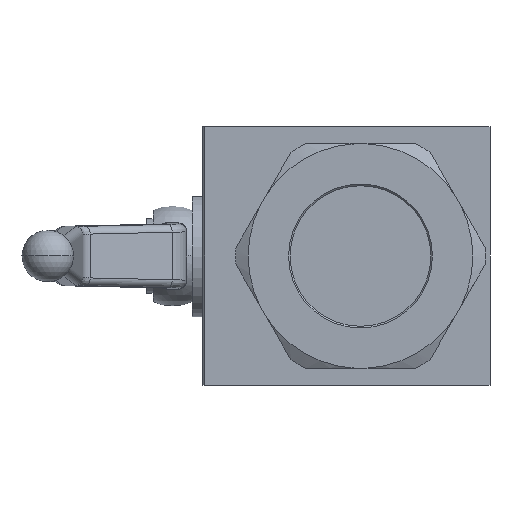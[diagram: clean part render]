
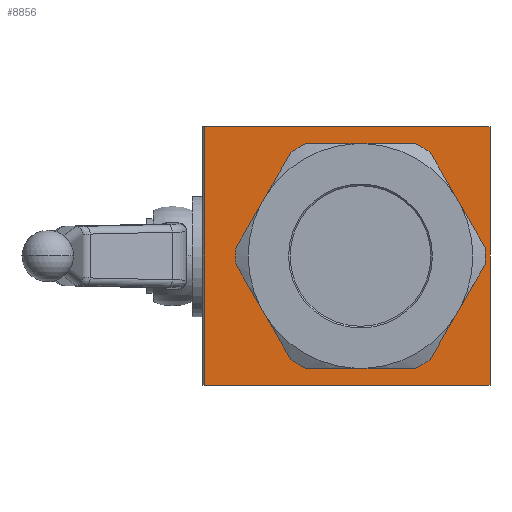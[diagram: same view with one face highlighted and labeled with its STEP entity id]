
A CAD part, left-side view. The second image highlights one B-rep face of the part: STEP entity #8856.
In plain terms, the highlighted planar face has unit normal (-1, 0, 0).
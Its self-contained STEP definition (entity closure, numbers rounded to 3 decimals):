
#151 = CARTESIAN_POINT ( 'NONE',  ( -42.5, 25.587, -19.768 ) ) ;
#192 = ORIENTED_EDGE ( 'NONE', *, *, #6669, .F. ) ;
#243 = EDGE_CURVE ( 'NONE', #6385, #10995, #10642, .T. ) ;
#313 = VECTOR ( 'NONE', #1812, 1000. ) ;
#355 = CARTESIAN_POINT ( 'NONE',  ( -42.5, -4.5, 0. ) ) ;
#390 = CARTESIAN_POINT ( 'NONE',  ( -42.5, 27.663, -16.172 ) ) ;
#435 = EDGE_CURVE ( 'NONE', #3451, #6654, #7914, .T. ) ;
#540 = LINE ( 'NONE', #4178, #3429 ) ;
#588 = AXIS2_PLACEMENT_3D ( 'NONE', #6982, #1754, #7864 ) ;
#589 = CARTESIAN_POINT ( 'NONE',  ( -42.5, -4.5, 0. ) ) ;
#792 = LINE ( 'NONE', #4767, #7496 ) ;
#1102 = CIRCLE ( 'NONE', #4184, 36. ) ;
#1235 = DIRECTION ( 'NONE',  ( 0., 0., 1. ) ) ;
#1253 = ORIENTED_EDGE ( 'NONE', *, *, #243, .F. ) ;
#1358 = VECTOR ( 'NONE', #7109, 1000. ) ;
#1472 = DIRECTION ( 'NONE',  ( 0., 0., 1. ) ) ;
#1497 = DIRECTION ( 'NONE',  ( -1., 0., 0. ) ) ;
#1586 = CARTESIAN_POINT ( 'NONE',  ( -42.5, 46., -41.5 ) ) ;
#1702 = DIRECTION ( 'NONE',  ( 0., 0.5, 0.866 ) ) ;
#1741 = CARTESIAN_POINT ( 'NONE',  ( -42.5, -46., 0. ) ) ;
#1754 = DIRECTION ( 'NONE',  ( 1., 0., 0. ) ) ;
#1770 = VERTEX_POINT ( 'NONE', #10509 ) ;
#1773 = ORIENTED_EDGE ( 'NONE', *, *, #2076, .F. ) ;
#1812 = DIRECTION ( 'NONE',  ( 0., -0.5, 0.866 ) ) ;
#1914 = ORIENTED_EDGE ( 'NONE', *, *, #435, .F. ) ;
#2076 = EDGE_CURVE ( 'NONE', #5516, #9198, #4662, .T. ) ;
#2133 = EDGE_CURVE ( 'NONE', #10387, #6385, #3581, .T. ) ;
#2144 = LINE ( 'NONE', #1741, #4478 ) ;
#2210 = CIRCLE ( 'NONE', #9126, 36. ) ;
#2262 = ORIENTED_EDGE ( 'NONE', *, *, #2133, .F. ) ;
#2504 = CARTESIAN_POINT ( 'NONE',  ( -42.5, -46., 41.5 ) ) ;
#2508 = CARTESIAN_POINT ( 'NONE',  ( -42.5, 46., 41.5 ) ) ;
#2511 = VECTOR ( 'NONE', #11265, 1000. ) ;
#2645 = ORIENTED_EDGE ( 'NONE', *, *, #9525, .F. ) ;
#2654 = ORIENTED_EDGE ( 'NONE', *, *, #6804, .F. ) ;
#2660 = CARTESIAN_POINT ( 'NONE',  ( -42.5, 45.5, 41.5 ) ) ;
#2752 = AXIS2_PLACEMENT_3D ( 'NONE', #355, #6473, #1235 ) ;
#3002 = VERTEX_POINT ( 'NONE', #7003 ) ;
#3080 = CARTESIAN_POINT ( 'NONE',  ( -42.5, -46., -41.5 ) ) ;
#3343 = CARTESIAN_POINT ( 'NONE',  ( -42.5, -34.587, -19.768 ) ) ;
#3355 = VERTEX_POINT ( 'NONE', #4972 ) ;
#3370 = ORIENTED_EDGE ( 'NONE', *, *, #4919, .T. ) ;
#3429 = VECTOR ( 'NONE', #9387, 1000. ) ;
#3451 = VERTEX_POINT ( 'NONE', #10322 ) ;
#3479 = VERTEX_POINT ( 'NONE', #7834 ) ;
#3499 = CARTESIAN_POINT ( 'NONE',  ( -42.5, -4.5, 0. ) ) ;
#3581 = CIRCLE ( 'NONE', #9563, 36. ) ;
#3589 = LINE ( 'NONE', #2660, #4798 ) ;
#3881 = VERTEX_POINT ( 'NONE', #5492 ) ;
#4178 = CARTESIAN_POINT ( 'NONE',  ( -42.5, 16.25, 35.94 ) ) ;
#4184 = AXIS2_PLACEMENT_3D ( 'NONE', #6737, #1497, #7610 ) ;
#4250 = VECTOR ( 'NONE', #7697, 1000. ) ;
#4318 = EDGE_CURVE ( 'NONE', #3479, #3002, #2144, .T. ) ;
#4378 = DIRECTION ( 'NONE',  ( 0., 0., 1. ) ) ;
#4397 = VECTOR ( 'NONE', #5127, 1000. ) ;
#4478 = VECTOR ( 'NONE', #1702, 1000. ) ;
#4611 = CARTESIAN_POINT ( 'NONE',  ( -42.5, -4.5, 0. ) ) ;
#4638 = ORIENTED_EDGE ( 'NONE', *, *, #4971, .F. ) ;
#4662 = LINE ( 'NONE', #2504, #4397 ) ;
#4734 = CARTESIAN_POINT ( 'NONE',  ( -42.5, -4.5, 0. ) ) ;
#4767 = CARTESIAN_POINT ( 'NONE',  ( -42.5, 16.25, -35.94 ) ) ;
#4798 = VECTOR ( 'NONE', #10476, 1000. ) ;
#4919 = EDGE_CURVE ( 'NONE', #7296, #6166, #3589, .T. ) ;
#4962 = LINE ( 'NONE', #8781, #313 ) ;
#4971 = EDGE_CURVE ( 'NONE', #4994, #3479, #2210, .T. ) ;
#4972 = CARTESIAN_POINT ( 'NONE',  ( -42.5, -2.423, 35.94 ) ) ;
#4994 = VERTEX_POINT ( 'NONE', #9095 ) ;
#5127 = DIRECTION ( 'NONE',  ( 0., 0., -1. ) ) ;
#5156 = AXIS2_PLACEMENT_3D ( 'NONE', #4611, #10700, #5482 ) ;
#5174 = CARTESIAN_POINT ( 'NONE',  ( -42.5, 45.5, -41.5 ) ) ;
#5482 = DIRECTION ( 'NONE',  ( 0., 0., 1. ) ) ;
#5492 = CARTESIAN_POINT ( 'NONE',  ( -42.5, -6.577, 35.94 ) ) ;
#5516 = VERTEX_POINT ( 'NONE', #10989 ) ;
#5614 = DIRECTION ( 'NONE',  ( 0., 0., 1. ) ) ;
#5623 = EDGE_LOOP ( 'NONE', ( #4638, #2645, #1914, #9421, #192, #1253, #2262, #2654, #10421, #6786, #6269, #6591 ) ) ;
#6060 = LINE ( 'NONE', #11065, #10416 ) ;
#6166 = VERTEX_POINT ( 'NONE', #5174 ) ;
#6269 = ORIENTED_EDGE ( 'NONE', *, *, #11132, .F. ) ;
#6366 = FACE_OUTER_BOUND ( 'NONE', #9222, .T. ) ;
#6385 = VERTEX_POINT ( 'NONE', #390 ) ;
#6473 = DIRECTION ( 'NONE',  ( -1., 0., 0. ) ) ;
#6568 = LINE ( 'NONE', #1586, #4250 ) ;
#6591 = ORIENTED_EDGE ( 'NONE', *, *, #4318, .F. ) ;
#6616 = EDGE_CURVE ( 'NONE', #6166, #9198, #6568, .T. ) ;
#6654 = VERTEX_POINT ( 'NONE', #3343 ) ;
#6669 = EDGE_CURVE ( 'NONE', #10995, #10644, #1102, .T. ) ;
#6680 = CARTESIAN_POINT ( 'NONE',  ( -42.5, -2.423, -35.94 ) ) ;
#6713 = DIRECTION ( 'NONE',  ( -1., 0., 0. ) ) ;
#6737 = CARTESIAN_POINT ( 'NONE',  ( -42.5, -4.5, 0. ) ) ;
#6786 = ORIENTED_EDGE ( 'NONE', *, *, #10237, .F. ) ;
#6804 = EDGE_CURVE ( 'NONE', #1770, #10387, #540, .T. ) ;
#6982 = CARTESIAN_POINT ( 'NONE',  ( -42.5, 46., 41.5 ) ) ;
#7003 = CARTESIAN_POINT ( 'NONE',  ( -42.5, -34.587, 19.768 ) ) ;
#7094 = EDGE_CURVE ( 'NONE', #10644, #3451, #792, .T. ) ;
#7109 = DIRECTION ( 'NONE',  ( 0., -0.5, -0.866 ) ) ;
#7296 = VERTEX_POINT ( 'NONE', #11279 ) ;
#7496 = VECTOR ( 'NONE', #10898, 1000. ) ;
#7610 = DIRECTION ( 'NONE',  ( 0., 0., 1. ) ) ;
#7697 = DIRECTION ( 'NONE',  ( 0., -1., 0. ) ) ;
#7762 = EDGE_CURVE ( 'NONE', #3355, #1770, #8440, .T. ) ;
#7834 = CARTESIAN_POINT ( 'NONE',  ( -42.5, -36.663, 16.172 ) ) ;
#7864 = DIRECTION ( 'NONE',  ( 0., 1., 0. ) ) ;
#7914 = CIRCLE ( 'NONE', #2752, 36. ) ;
#8069 = CARTESIAN_POINT ( 'NONE',  ( -42.5, 37., 0. ) ) ;
#8440 = CIRCLE ( 'NONE', #10110, 36. ) ;
#8471 = DIRECTION ( 'NONE',  ( 0., 1., 0. ) ) ;
#8781 = CARTESIAN_POINT ( 'NONE',  ( -42.5, -25.25, -35.94 ) ) ;
#8856 = ADVANCED_FACE ( 'NONE', ( #8950, #6366 ), #9566, .F. ) ;
#8950 = FACE_BOUND ( 'NONE', #5623, .T. ) ;
#9095 = CARTESIAN_POINT ( 'NONE',  ( -42.5, -36.663, -16.172 ) ) ;
#9126 = AXIS2_PLACEMENT_3D ( 'NONE', #4734, #10824, #5614 ) ;
#9198 = VERTEX_POINT ( 'NONE', #3080 ) ;
#9222 = EDGE_LOOP ( 'NONE', ( #11166, #1773, #11096, #3370 ) ) ;
#9292 = CIRCLE ( 'NONE', #5156, 36. ) ;
#9387 = DIRECTION ( 'NONE',  ( 0., 0.5, -0.866 ) ) ;
#9421 = ORIENTED_EDGE ( 'NONE', *, *, #7094, .F. ) ;
#9443 = EDGE_CURVE ( 'NONE', #7296, #5516, #9463, .T. ) ;
#9463 = LINE ( 'NONE', #2508, #2511 ) ;
#9525 = EDGE_CURVE ( 'NONE', #6654, #4994, #4962, .T. ) ;
#9563 = AXIS2_PLACEMENT_3D ( 'NONE', #3499, #9588, #4378 ) ;
#9566 = PLANE ( 'NONE',  #588 ) ;
#9588 = DIRECTION ( 'NONE',  ( -1., 0., 0. ) ) ;
#10110 = AXIS2_PLACEMENT_3D ( 'NONE', #589, #6713, #1472 ) ;
#10237 = EDGE_CURVE ( 'NONE', #3881, #3355, #6060, .T. ) ;
#10322 = CARTESIAN_POINT ( 'NONE',  ( -42.5, -6.577, -35.94 ) ) ;
#10387 = VERTEX_POINT ( 'NONE', #11288 ) ;
#10416 = VECTOR ( 'NONE', #8471, 1000. ) ;
#10421 = ORIENTED_EDGE ( 'NONE', *, *, #7762, .F. ) ;
#10476 = DIRECTION ( 'NONE',  ( 0., 0., -1. ) ) ;
#10509 = CARTESIAN_POINT ( 'NONE',  ( -42.5, 25.587, 19.768 ) ) ;
#10642 = LINE ( 'NONE', #8069, #1358 ) ;
#10644 = VERTEX_POINT ( 'NONE', #6680 ) ;
#10700 = DIRECTION ( 'NONE',  ( -1., 0., 0. ) ) ;
#10824 = DIRECTION ( 'NONE',  ( -1., 0., 0. ) ) ;
#10898 = DIRECTION ( 'NONE',  ( 0., -1., 0. ) ) ;
#10989 = CARTESIAN_POINT ( 'NONE',  ( -42.5, -46., 41.5 ) ) ;
#10995 = VERTEX_POINT ( 'NONE', #151 ) ;
#11065 = CARTESIAN_POINT ( 'NONE',  ( -42.5, -25.25, 35.94 ) ) ;
#11096 = ORIENTED_EDGE ( 'NONE', *, *, #9443, .F. ) ;
#11132 = EDGE_CURVE ( 'NONE', #3002, #3881, #9292, .T. ) ;
#11166 = ORIENTED_EDGE ( 'NONE', *, *, #6616, .T. ) ;
#11265 = DIRECTION ( 'NONE',  ( 0., -1., 0. ) ) ;
#11279 = CARTESIAN_POINT ( 'NONE',  ( -42.5, 45.5, 41.5 ) ) ;
#11288 = CARTESIAN_POINT ( 'NONE',  ( -42.5, 27.663, 16.172 ) ) ;
